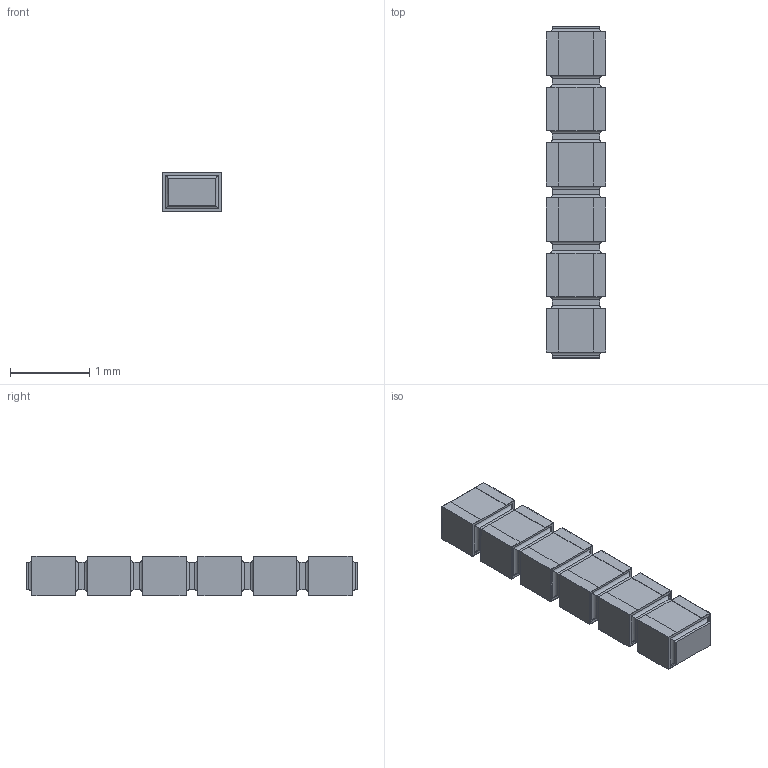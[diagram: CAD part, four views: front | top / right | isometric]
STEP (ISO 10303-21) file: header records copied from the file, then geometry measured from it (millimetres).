
FILE_DESCRIPTION(/* description */ (''),/* implementation_level */ '2;1');
FILE_NAME(/* name */ 'S:\DOCUMENT\AUTOCAD\3D_Modèles\10_3D-pour-VISHAY-COM\PRA\PRA073\PRA073-I2_à_I8\10_IGES\PRA073I6_B-or-N-or-G.stp',/* time_stamp */ '2017-12-21T10:47:35+01:00',/* author */ ('dparmentier'),/* organization */ ('unknown'),/* preprocessor_version */ 'ST-DEVELOPER v17',/* originating_system */ 'Autodesk Inventor 2018',/* authorisation */ '');
FILE_SCHEMA (('AUTOMOTIVE_DESIGN { 1 0 10303 214 3 1 1 }'));
Length unit declared in the file: millimetre
Products named in the file (1): PRA073I6_B-or-N-or-G
Bounding box: 0.75 x 4.2 x 0.5 mm (x, y, z)
Volume: 1.4 mm3; surface area: 22.3 mm2
Topology: 13 solids, 13 shells, 234 faces, 540 edges, 344 vertices
Faces by surface type: plane 186, cylinder 48
Entity records: 6509 total; most frequent: CARTESIAN_POINT 1119, ORIENTED_EDGE 1080, DIRECTION 1058, EDGE_CURVE 540, LINE 492, VECTOR 492, VERTEX_POINT 344, AXIS2_PLACEMENT_3D 283
